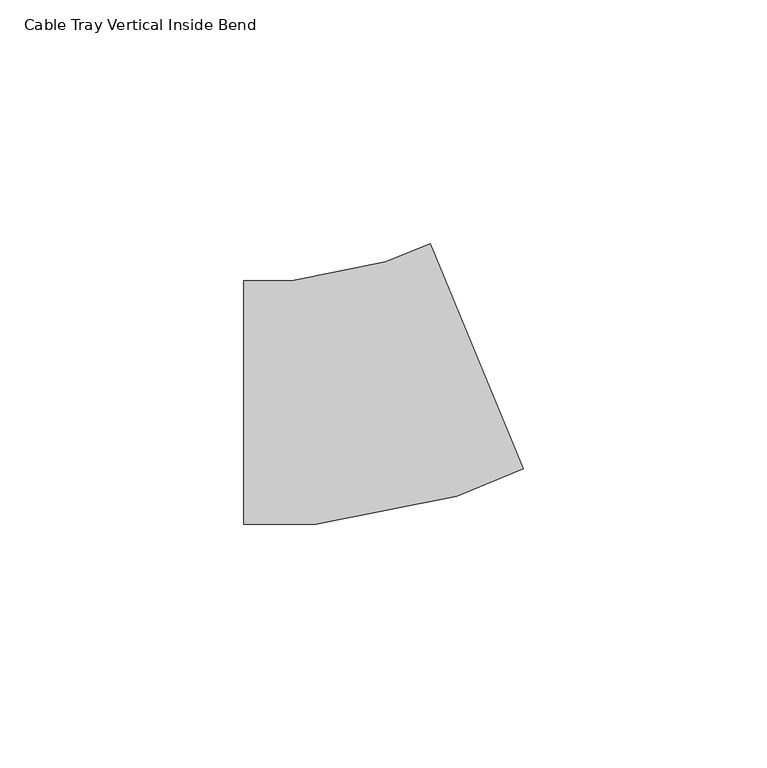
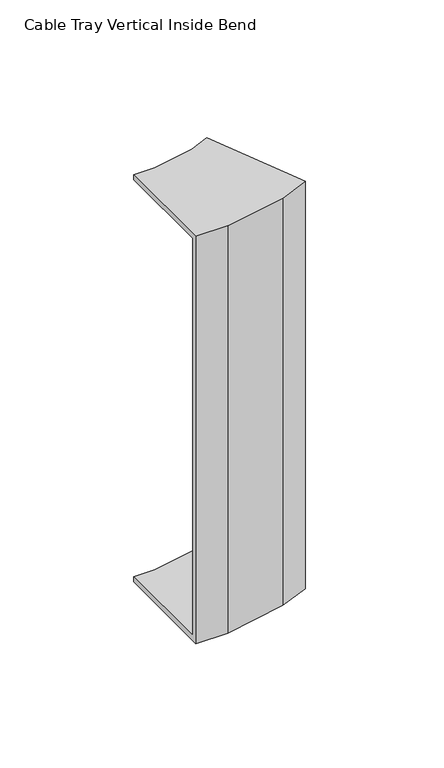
"""IFC4 building model written with IfcOpenShell, lengths in millimetres: cable carrier fitting geometry, Cable Tray Vertical Inside Bend : ELEC_SUB_CT_N2402."""

from ifc_helpers import new_model, si_unit, origin, place, context, project, spatial, faceted_brep, source, transform, mapped, element, save


def cable_tray_vertical_inside_bend_ed059ede(model_context):
    return source(origin(), model_context, "Body", "Brep", [
        faceted_brep([(-24.8640452, 25.0, 100.0), (-24.8640452, 25.0, 97.46), (-24.8640452, -22.46, 97.46), (-24.8640452, -22.46, -97.46), (-24.8640452, 25.0, -97.46), (-24.8640452, 25.0, -100.0), (-24.8640452, -25.0, -100.0), (-24.8640452, -25.0, 100.0), (13.404297, 32.6120463, 100.0), (32.5384681, -13.5819305, 100.0), (32.5384681, -13.5819305, -100.0), (13.404297, 32.6120463, -100.0), (13.404297, 32.6120463, -97.46), (31.5664522, -11.2352765, -97.46), (31.5664522, -11.2352765, 97.46), (13.404297, 32.6120463, 97.46), (-15.0149051, 25.0, 100.0), (-15.0149051, 25.0, 97.46), (4.3048781, 28.8429437, 97.46), (18.148449, -16.7931952, 97.46), (-10.3405033, -22.46, 97.46), (-10.3405033, -22.46, -97.46), (18.148449, -16.7931952, -97.46), (4.3048781, 28.8429437, -97.46), (-15.0149051, 25.0, -97.46), (-15.0149051, 25.0, -100.0), (4.3048781, 28.8429437, -100.0), (18.8893397, -19.2355845, -100.0), (-10.0903351, -25.0, -100.0), (-10.0903351, -25.0, 100.0), (18.8893397, -19.2355845, 100.0), (4.3048781, 28.8429437, 100.0)], [[[0, 1, 2, 3, 4, 5, 6, 7]], [[8, 9, 10, 11, 12, 13, 14, 15]], [[1, 0, 16, 17]], [[2, 1, 17, 18, 15, 14, 19, 20]], [[3, 2, 20, 21]], [[4, 3, 21, 22, 13, 12, 23, 24]], [[5, 4, 24, 25]], [[6, 5, 25, 26, 11, 10, 27, 28]], [[7, 6, 28, 29]], [[0, 7, 29, 30, 9, 8, 31, 16]], [[17, 16, 31, 18]], [[21, 20, 19, 22]], [[25, 24, 23, 26]], [[29, 28, 27, 30]], [[18, 31, 8, 15]], [[22, 19, 14, 13]], [[26, 23, 12, 11]], [[30, 27, 10, 9]]]),
    ])


if __name__ == "__main__":
    model = new_model("IFC4")
    model_context = context("Model", 3, world=origin())
    ifc_project = project(units=[si_unit("LENGTHUNIT", "METRE", prefix="MILLI")], contexts=[model_context])
    site = spatial("IfcSite", under=ifc_project)
    building = spatial("IfcBuilding", under=site)
    placement = place(None, origin())
    cable_tray_vertical_inside_bend_shape = cable_tray_vertical_inside_bend_ed059ede(model_context)
    element("IfcCableCarrierFitting", 1, ObjectType="Cable Tray Vertical Inside Bend : ELEC_SUB_CT_N2402", at=placement, inside=building, context=model_context, shape_type="MappedRepresentation", body=[
        mapped(cable_tray_vertical_inside_bend_shape, transform((0.0, 0.0, 0.0), x_axis=(1.0, 0.0, 0.0), y_axis=(0.0, 1.0, 0.0), z_axis=(0.0, 0.0, 1.0))),
    ])
    save(model, "model.ifc")
